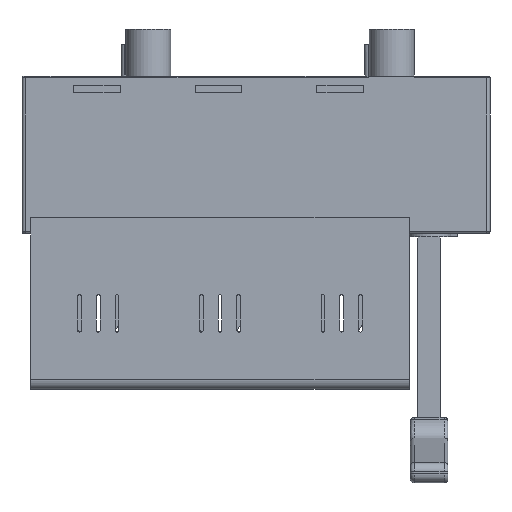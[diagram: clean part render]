
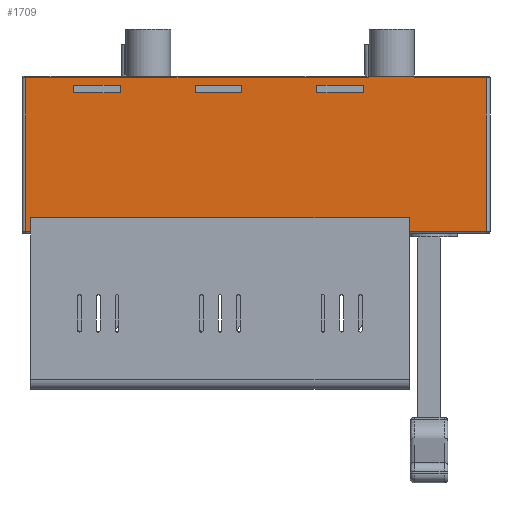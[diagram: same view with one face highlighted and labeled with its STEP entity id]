
A CAD part, front view. The second image highlights one B-rep face of the part: STEP entity #1709.
In plain terms, the highlighted planar face has unit normal (0, -1, 0).
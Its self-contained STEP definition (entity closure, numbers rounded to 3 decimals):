
#332=FACE_BOUND('',#4474,.T.);
#333=FACE_BOUND('',#4475,.T.);
#334=FACE_BOUND('',#4476,.T.);
#335=FACE_BOUND('',#4477,.T.);
#1709=ADVANCED_FACE('',(#332,#333,#334,#335),#2352,.T.);
#2352=PLANE('',#20981);
#4474=EDGE_LOOP('',(#10558,#10559,#10560,#10561));
#4475=EDGE_LOOP('',(#10562,#10563,#10564,#10565));
#4476=EDGE_LOOP('',(#10566,#10567,#10568,#10569,#10570,#10571,#10572,#10573,
#10574,#10575));
#4477=EDGE_LOOP('',(#10576,#10577,#10578,#10579));
#10558=ORIENTED_EDGE('',*,*,#14979,.F.);
#10559=ORIENTED_EDGE('',*,*,#14975,.T.);
#10560=ORIENTED_EDGE('',*,*,#14978,.F.);
#10561=ORIENTED_EDGE('',*,*,#14973,.F.);
#10562=ORIENTED_EDGE('',*,*,#15003,.F.);
#10563=ORIENTED_EDGE('',*,*,#14999,.T.);
#10564=ORIENTED_EDGE('',*,*,#15002,.F.);
#10565=ORIENTED_EDGE('',*,*,#14997,.F.);
#10566=ORIENTED_EDGE('',*,*,#15166,.T.);
#10567=ORIENTED_EDGE('',*,*,#15073,.T.);
#10568=ORIENTED_EDGE('',*,*,#15102,.F.);
#10569=ORIENTED_EDGE('',*,*,#15092,.T.);
#10570=ORIENTED_EDGE('',*,*,#15101,.T.);
#10571=ORIENTED_EDGE('',*,*,#15054,.T.);
#10572=ORIENTED_EDGE('',*,*,#15224,.T.);
#10573=ORIENTED_EDGE('',*,*,#15217,.F.);
#10574=ORIENTED_EDGE('',*,*,#15155,.F.);
#10575=ORIENTED_EDGE('',*,*,#15235,.T.);
#10576=ORIENTED_EDGE('',*,*,#15024,.F.);
#10577=ORIENTED_EDGE('',*,*,#15027,.T.);
#10578=ORIENTED_EDGE('',*,*,#15020,.T.);
#10579=ORIENTED_EDGE('',*,*,#15026,.T.);
#12327=VERTEX_POINT('',#31480);
#12328=VERTEX_POINT('',#31482);
#12329=VERTEX_POINT('',#31486);
#12330=VERTEX_POINT('',#31487);
#12343=VERTEX_POINT('',#31530);
#12344=VERTEX_POINT('',#31532);
#12345=VERTEX_POINT('',#31536);
#12346=VERTEX_POINT('',#31537);
#12359=VERTEX_POINT('',#31580);
#12360=VERTEX_POINT('',#31581);
#12361=VERTEX_POINT('',#31586);
#12362=VERTEX_POINT('',#31588);
#12380=VERTEX_POINT('',#31643);
#12381=VERTEX_POINT('',#31663);
#12391=VERTEX_POINT('',#31702);
#12394=VERTEX_POINT('',#31720);
#12403=VERTEX_POINT('',#31747);
#12407=VERTEX_POINT('',#31789);
#12455=VERTEX_POINT('',#31934);
#12456=VERTEX_POINT('',#31936);
#12461=VERTEX_POINT('',#31952);
#12497=VERTEX_POINT('',#32057);
#14973=EDGE_CURVE('',#12327,#12328,#17071,.T.);
#14975=EDGE_CURVE('',#12329,#12330,#17073,.T.);
#14978=EDGE_CURVE('',#12328,#12330,#17076,.T.);
#14979=EDGE_CURVE('',#12329,#12327,#17077,.T.);
#14997=EDGE_CURVE('',#12343,#12344,#17095,.T.);
#14999=EDGE_CURVE('',#12345,#12346,#17097,.T.);
#15002=EDGE_CURVE('',#12344,#12346,#17100,.T.);
#15003=EDGE_CURVE('',#12345,#12343,#17101,.T.);
#15020=EDGE_CURVE('',#12359,#12360,#17118,.T.);
#15024=EDGE_CURVE('',#12361,#12362,#17122,.T.);
#15026=EDGE_CURVE('',#12360,#12362,#17124,.T.);
#15027=EDGE_CURVE('',#12361,#12359,#17125,.T.);
#15054=EDGE_CURVE('',#12380,#12381,#17142,.T.);
#15073=EDGE_CURVE('',#12394,#12391,#17151,.T.);
#15092=EDGE_CURVE('',#12407,#12403,#17157,.T.);
#15101=EDGE_CURVE('',#12403,#12380,#17162,.T.);
#15102=EDGE_CURVE('',#12407,#12391,#17163,.T.);
#15155=EDGE_CURVE('',#12455,#12456,#17185,.T.);
#15166=EDGE_CURVE('',#12461,#12394,#17192,.T.);
#15217=EDGE_CURVE('',#12456,#12497,#17224,.T.);
#15224=EDGE_CURVE('',#12381,#12497,#17230,.T.);
#15235=EDGE_CURVE('',#12455,#12461,#17240,.T.);
#17071=LINE('',#31481,#19076);
#17073=LINE('',#31485,#19078);
#17076=LINE('',#31491,#19081);
#17077=LINE('',#31493,#19082);
#17095=LINE('',#31531,#19100);
#17097=LINE('',#31535,#19102);
#17100=LINE('',#31541,#19105);
#17101=LINE('',#31543,#19106);
#17118=LINE('',#31579,#19123);
#17122=LINE('',#31587,#19127);
#17124=LINE('',#31591,#19129);
#17125=LINE('',#31593,#19130);
#17142=LINE('',#31665,#19147);
#17151=LINE('',#31723,#19156);
#17157=LINE('',#31792,#19162);
#17162=LINE('',#31809,#19167);
#17163=LINE('',#31811,#19168);
#17185=LINE('',#31935,#19190);
#17192=LINE('',#31956,#19197);
#17224=LINE('',#32056,#19229);
#17230=LINE('',#32068,#19235);
#17240=LINE('',#32088,#19245);
#19076=VECTOR('',#25879,1.);
#19078=VECTOR('',#25883,1.);
#19081=VECTOR('',#25888,1.);
#19082=VECTOR('',#25891,1.);
#19100=VECTOR('',#25923,1.);
#19102=VECTOR('',#25927,1.);
#19105=VECTOR('',#25932,1.);
#19106=VECTOR('',#25935,1.);
#19123=VECTOR('',#25966,1.);
#19127=VECTOR('',#25972,1.);
#19129=VECTOR('',#25976,1.);
#19130=VECTOR('',#25979,1.);
#19147=VECTOR('',#26034,1.);
#19156=VECTOR('',#26069,1.);
#19162=VECTOR('',#26109,1.);
#19167=VECTOR('',#26132,1.);
#19168=VECTOR('',#26135,1.);
#19190=VECTOR('',#26273,1.);
#19197=VECTOR('',#26294,1.);
#19229=VECTOR('',#26394,1.);
#19235=VECTOR('',#26406,1.);
#19245=VECTOR('',#26428,1.);
#20981=AXIS2_PLACEMENT_3D('',#32099,#26446,#26447);
#25879=DIRECTION('',(1.,0.,0.));
#25883=DIRECTION('',(1.,0.,0.));
#25888=DIRECTION('',(0.,0.,1.));
#25891=DIRECTION('',(0.,0.,-1.));
#25923=DIRECTION('',(1.,0.,0.));
#25927=DIRECTION('',(1.,0.,0.));
#25932=DIRECTION('',(0.,0.,1.));
#25935=DIRECTION('',(0.,0.,-1.));
#25966=DIRECTION('',(-1.,0.,0.));
#25972=DIRECTION('',(-1.,0.,0.));
#25976=DIRECTION('',(0.,0.,1.));
#25979=DIRECTION('',(0.,0.,-1.));
#26034=DIRECTION('',(-1.,0.,0.));
#26069=DIRECTION('',(-1.,0.,0.));
#26109=DIRECTION('',(1.,0.,0.));
#26132=DIRECTION('',(0.,0.,1.));
#26135=DIRECTION('',(0.,0.,1.));
#26273=DIRECTION('',(0.,0.,-1.));
#26294=DIRECTION('',(0.,0.,-1.));
#26394=DIRECTION('',(1.,0.,0.));
#26406=DIRECTION('',(0.,0.,1.));
#26428=DIRECTION('',(-1.,0.,0.));
#26446=DIRECTION('',(0.,-1.,0.));
#26447=DIRECTION('',(1.,0.,0.));
#31480=CARTESIAN_POINT('',(-105.,-52.5,-9.));
#31481=CARTESIAN_POINT('',(-12.,-52.5,-9.));
#31482=CARTESIAN_POINT('',(-80.,-52.5,-9.));
#31485=CARTESIAN_POINT('',(-12.,-52.5,-5.));
#31486=CARTESIAN_POINT('',(-105.,-52.5,-5.));
#31487=CARTESIAN_POINT('',(-80.,-52.5,-5.));
#31491=CARTESIAN_POINT('',(-80.,-52.5,4.));
#31493=CARTESIAN_POINT('',(-105.,-52.5,4.));
#31530=CARTESIAN_POINT('',(-170.,-52.5,-9.));
#31531=CARTESIAN_POINT('',(-12.,-52.5,-9.));
#31532=CARTESIAN_POINT('',(-145.,-52.5,-9.));
#31535=CARTESIAN_POINT('',(-12.,-52.5,-5.));
#31536=CARTESIAN_POINT('',(-170.,-52.5,-5.));
#31537=CARTESIAN_POINT('',(-145.,-52.5,-5.));
#31541=CARTESIAN_POINT('',(-145.,-52.5,4.));
#31543=CARTESIAN_POINT('',(-170.,-52.5,4.));
#31579=CARTESIAN_POINT('',(-12.,-52.5,-9.));
#31580=CARTESIAN_POINT('',(-15.,-52.5,-9.));
#31581=CARTESIAN_POINT('',(-40.,-52.5,-9.));
#31586=CARTESIAN_POINT('',(-15.,-52.5,-5.));
#31587=CARTESIAN_POINT('',(-12.,-52.5,-5.));
#31588=CARTESIAN_POINT('',(-40.,-52.5,-5.));
#31591=CARTESIAN_POINT('',(-40.,-52.5,4.));
#31593=CARTESIAN_POINT('',(-15.,-52.5,4.));
#31643=CARTESIAN_POINT('',(50.5,-52.5,-1.));
#31663=CARTESIAN_POINT('',(12.,-52.5,-1.));
#31665=CARTESIAN_POINT('',(12.,-52.5,-1.));
#31702=CARTESIAN_POINT('',(-195.5,-52.5,-1.));
#31720=CARTESIAN_POINT('',(-12.5,-52.5,-1.));
#31723=CARTESIAN_POINT('',(-195.5,-52.5,-1.));
#31747=CARTESIAN_POINT('',(50.5,-52.5,-83.));
#31789=CARTESIAN_POINT('',(-195.5,-52.5,-83.));
#31792=CARTESIAN_POINT('',(-12.,-52.5,-83.));
#31809=CARTESIAN_POINT('',(50.5,-52.5,-84.));
#31811=CARTESIAN_POINT('',(-195.5,-52.5,-84.));
#31934=CARTESIAN_POINT('',(-12.,-52.5,17.));
#31935=CARTESIAN_POINT('',(-12.,-52.5,25.));
#31936=CARTESIAN_POINT('',(-12.,-52.5,0.));
#31952=CARTESIAN_POINT('',(-12.5,-52.5,17.));
#31956=CARTESIAN_POINT('',(-12.5,-52.5,4.));
#32056=CARTESIAN_POINT('',(50.5,-52.5,0.));
#32057=CARTESIAN_POINT('',(12.,-52.5,0.));
#32068=CARTESIAN_POINT('',(12.,-52.5,4.));
#32088=CARTESIAN_POINT('',(7.5,-52.5,17.));
#32099=CARTESIAN_POINT('',(-12.,-52.5,4.));
